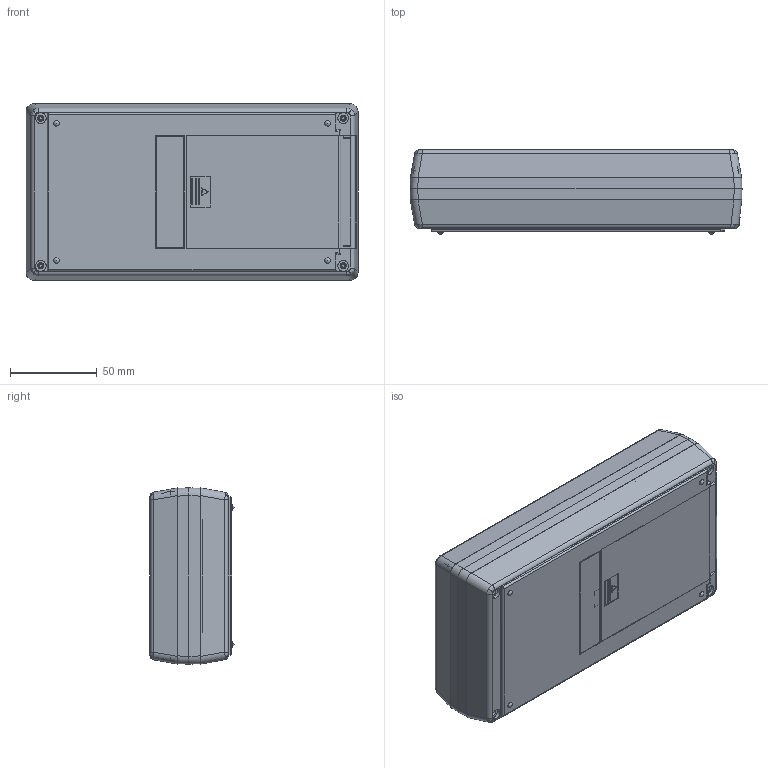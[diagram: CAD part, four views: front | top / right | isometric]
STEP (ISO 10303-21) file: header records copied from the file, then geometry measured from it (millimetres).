
FILE_DESCRIPTION (( 'STEP AP214' ), '1' );
FILE_NAME ('101-42-6A-E-R.STEP', '2019-12-01T00:59:36', ( 'Rudy' ), ( '' ), 'SwSTEP 2.0', 'SolidWorks 2014', '' );
FILE_SCHEMA (( 'AUTOMOTIVE_DESIGN' ));
Length unit declared in the file: millimetre
Products named in the file (5): 6AAdoor; 100-06 EXPANDER; 100-04-LCD Top; 100-02 BOT-6AA; 101-42-6A-E-R
Assembly tree (4 placements, depth 2):
  101-42-6A-E-R
    100-02 BOT-6AA
    100-04-LCD Top
    100-06 EXPANDER
    6AAdoor
Bounding box: 191 x 48.36 x 101.4 mm (x, y, z)
Volume: 140917.8 mm3; surface area: 157775.1 mm2
Topology: 4 solids, 4 shells, 1188 faces, 3231 edges, 2048 vertices
Faces by surface type: plane 793, cylinder 293, bspline 44, cone 42, torus 12, sphere 4
Entity records: 38544 total; most frequent: CARTESIAN_POINT 9247, ORIENTED_EDGE 6384, DIRECTION 5596, EDGE_CURVE 3192, LINE 2410, VECTOR 2410, VERTEX_POINT 2040, AXIS2_PLACEMENT_3D 1593
